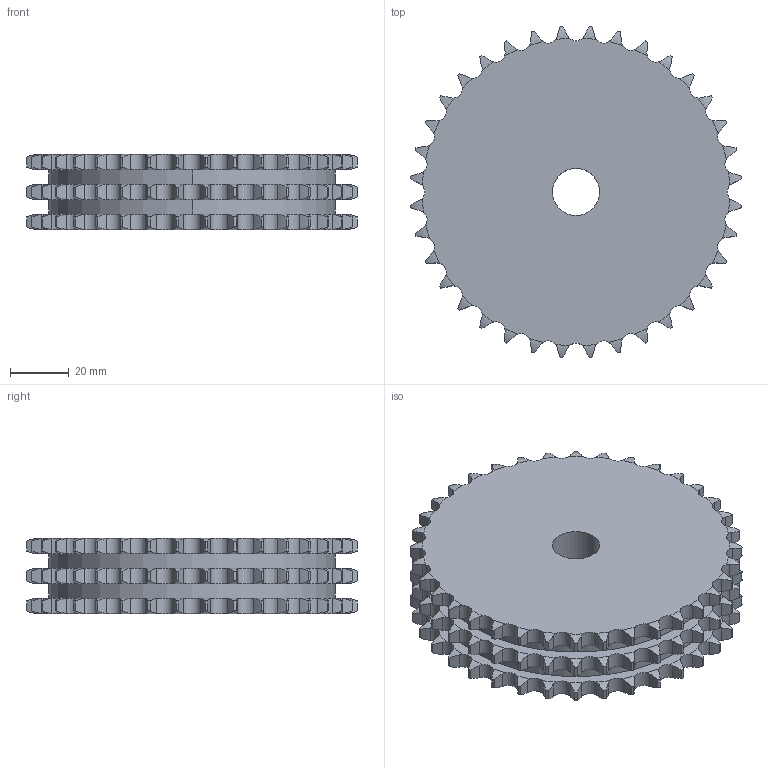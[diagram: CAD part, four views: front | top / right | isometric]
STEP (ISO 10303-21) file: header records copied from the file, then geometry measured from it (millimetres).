
FILE_DESCRIPTION((''),'2;1');
FILE_NAME('500-103-0036_PRT','2021-02-12T',('Brieden'),('Brieden'),'PRO/ENGINEER BY PARAMETRIC TECHNOLOGY CORPORATION, 2010160','PRO/ENGINEER BY PARAMETRIC TECHNOLOGY CORPORATION, 2010160','');
FILE_SCHEMA(('AUTOMOTIVE_DESIGN { 1 0 10303 214 1 1 1 1 }'));
Length unit declared in the file: millimetre
Products named in the file (1): 500-103-0036_PRT
Bounding box: 112.52 x 112.52 x 25.6 mm (x, y, z)
Volume: 208053.6 mm3; surface area: 35318.5 mm2
Topology: 1 solids, 1 shells, 660 faces, 1962 edges, 1308 vertices
Faces by surface type: cylinder 438, torus 216, plane 6
Entity records: 32163 total; most frequent: CARTESIAN_POINT 9558, ORIENTED_EDGE 3924, DIRECTION 3078, PRESENTATION_STYLE_ASSIGNMENT 1963, STYLED_ITEM 1963, CURVE_STYLE 1962, EDGE_CURVE 1962, AXIS2_PLACEMENT_3D 1320
